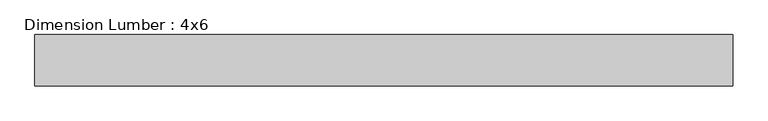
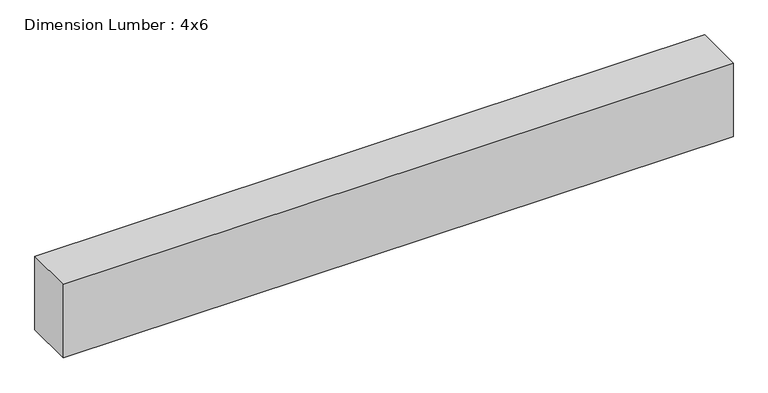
"""IFC4 building model written with IfcOpenShell, lengths in millimetres: beam geometry, Dimension Lumber : 4x6."""

import ifcopenshell
import ifcopenshell.guid

model = None  # the IFC model being written
_history = None  # IfcOwnerHistory: only IFC2X3 demands one
_inside = {}  # id of a spatial element -> (the spatial element, [elements in it])
_under = {}  # id of a project, library or spatial element -> (it, [spatial elements below it])
_declared = {}  # id of a project -> (the project, [libraries it declares])
_typed = {}  # id of a type object -> (the type object, [elements of that type])
_made_of = {}  # id of a material, layer set ... -> (it, [elements and type objects made of it])


def new_model(schema):
    """Start an empty IFC model of exactly this schema.

    Asked for "IFC4X3", IfcOpenShell would pick the latest addendum, in which some entities
    have other attributes; the version numbers below select the first issue.
    IFC2X3 requires an IfcOwnerHistory on every rooted entity: one is made here for all.
    """
    global model, _history
    if schema == "IFC4X3":
        model = ifcopenshell.file(schema_version=(4, 3, 0, 0))
    else:
        model = ifcopenshell.file(schema=schema)
    _inside.clear()
    _under.clear()
    _declared.clear()
    _typed.clear()
    _made_of.clear()
    _history = None
    if model.schema == "IFC2X3":
        org = make("IfcOrganization", Name="unknown")
        user = make(
            "IfcPersonAndOrganization",
            ThePerson=make("IfcPerson", FamilyName="unknown"),
            TheOrganization=org,
        )
        app = make(
            "IfcApplication",
            ApplicationDeveloper=org,
            Version="unknown",
            ApplicationFullName="unknown",
            ApplicationIdentifier="unknown",
        )
        _history = make(
            "IfcOwnerHistory",
            OwningUser=user,
            OwningApplication=app,
            ChangeAction="ADDED",
            CreationDate=0,
        )
    return model


def make(cls, **values):
    """One entity of the class cls with the attributes given. An attribute that is None is left unset."""
    return model.create_entity(
        cls, **{name: value for name, value in values.items() if value is not None}
    )


def rooted(cls, **values):
    """An entity with a GlobalId (a new one), such as an element, a storey or a relation."""
    return make(cls, GlobalId=ifcopenshell.guid.new(), OwnerHistory=_history, **values)


def si_unit(unit_type, name, prefix=None):
    """IfcSIUnit, for example si_unit("LENGTHUNIT", "METRE", prefix="MILLI")."""
    return make("IfcSIUnit", UnitType=unit_type, Prefix=prefix, Name=name)


def assignment(units):
    """IfcUnitAssignment: the units of a project."""
    return None if units is None else make("IfcUnitAssignment", Units=units)


def point(xyz):
    """IfcCartesianPoint."""
    return None if xyz is None else make("IfcCartesianPoint", Coordinates=xyz)


def direction(xyz):
    """IfcDirection."""
    return None if xyz is None else make("IfcDirection", DirectionRatios=xyz)


def frame(location, z_axis=None, x_axis=None):
    """IfcAxis2Placement3D, a coordinate frame: its origin and axes. An axis left out is left unset."""
    return make(
        "IfcAxis2Placement3D",
        Location=point(location),
        Axis=direction(z_axis),
        RefDirection=direction(x_axis),
    )


def origin():
    """The frame at (0, 0, 0) with its axes left unset."""
    return frame((0.0, 0.0, 0.0))


def place(relative_to, where):
    """IfcLocalPlacement: puts the frame where relative to a parent placement (None: the world)."""
    return make(
        "IfcLocalPlacement", PlacementRelTo=relative_to, RelativePlacement=where
    )


def context(
    kind, dimensions, precision=None, world=None, true_north=None, identifier=None
):
    """IfcGeometricRepresentationContext, for example the 3D "Model" context."""
    return make(
        "IfcGeometricRepresentationContext",
        ContextIdentifier=identifier,
        ContextType=kind,
        CoordinateSpaceDimension=dimensions,
        Precision=precision,
        WorldCoordinateSystem=world,
        TrueNorth=true_north,
    )


def project(units=None, contexts=None):
    """IfcProject with its units and contexts."""
    return rooted(
        "IfcProject",
        Name="project",
        RepresentationContexts=contexts,
        UnitsInContext=assignment(units),
    )


def spatial(cls, under=None, at=None, **own):
    """A site, building, storey or space (cls), placed at a placement, below another one or the project."""
    s = rooted(cls, ObjectPlacement=at, **own)
    if under is not None:
        _under.setdefault(under.id(), (under, []))[1].append(s)
    return s


def polyline(points):
    """IfcPolyline through the points."""
    return make("IfcPolyline", Points=[point(p) for p in points])


def outline(outer, holes=None, kind="AREA"):
    """IfcArbitraryClosedProfileDef: a profile drawn as a closed curve; with holes, ...WithVoids."""
    if holes is None:
        return make("IfcArbitraryClosedProfileDef", ProfileType=kind, OuterCurve=outer)
    return make(
        "IfcArbitraryProfileDefWithVoids",
        ProfileType=kind,
        OuterCurve=outer,
        InnerCurves=holes,
    )


def extrude(swept, where, along, depth):
    """IfcExtrudedAreaSolid: the profile swept, set in the frame where, extruded along a direction by depth."""
    return make(
        "IfcExtrudedAreaSolid",
        SweptArea=swept,
        Position=where,
        ExtrudedDirection=direction(along),
        Depth=depth,
    )


def shape(context_of_items, identifier, shape_type, items):
    """IfcShapeRepresentation: the items that make up one representation, for example the "Body"."""
    return make(
        "IfcShapeRepresentation",
        ContextOfItems=context_of_items,
        RepresentationIdentifier=identifier,
        RepresentationType=shape_type,
        Items=items,
    )


def source(mapping_origin, context_of_items, identifier, shape_type, items):
    """IfcRepresentationMap: a shape defined once, which mapped items show again and again."""
    return make(
        "IfcRepresentationMap",
        MappingOrigin=mapping_origin,
        MappedRepresentation=shape(context_of_items, identifier, shape_type, items),
    )


def transform(
    local_origin,
    x_axis=None,
    y_axis=None,
    z_axis=None,
    scale=None,
    scale2=None,
    scale3=None,
    uniform=True,
):
    """IfcCartesianTransformationOperator3D, or its non-uniform kind. x_axis, y_axis, z_axis: its Axis1, 2, 3."""
    if uniform:
        return make(
            "IfcCartesianTransformationOperator3D",
            Axis1=direction(x_axis),
            Axis2=direction(y_axis),
            LocalOrigin=point(local_origin),
            Scale=scale,
            Axis3=direction(z_axis),
        )
    return make(
        "IfcCartesianTransformationOperator3DnonUniform",
        Axis1=direction(x_axis),
        Axis2=direction(y_axis),
        LocalOrigin=point(local_origin),
        Scale=scale,
        Axis3=direction(z_axis),
        Scale2=scale2,
        Scale3=scale3,
    )


def mapped(mapping_source, mapping_target):
    """IfcMappedItem: shows the shape of a source again, moved by a transform."""
    return make(
        "IfcMappedItem", MappingSource=mapping_source, MappingTarget=mapping_target
    )


def made_of(thing, what):
    """Note that an element or type object is made of a material, layer set ...; save() writes the relation."""
    if what is not None:
        _made_of.setdefault(what.id(), (what, []))[1].append(thing)
    return thing


def element(
    cls,
    number,
    at=None,
    inside=None,
    cuts=None,
    type_object=None,
    material=None,
    context=None,
    identifier="Body",
    shape_type=None,
    held_by="IfcProductDefinitionShape",
    body=None,
    shapes=None,
    **own,
):
    """One element of the class cls, such as IfcWall. Its Tag is "e" and its number.

    at: its placement. inside: the storey or other place that contains it. cuts: it is an
    opening in that element (IfcRelVoidsElement). A single representation is given by context,
    identifier, shape_type and body (its items); several are given by shapes. held_by: the class
    of the entity that holds the representations. save() writes the other relations.
    """
    e = rooted(cls, Tag="e%d" % number, ObjectPlacement=at, **own)
    if body is not None:
        shapes = [shape(context, identifier, shape_type, body)]
    if shapes is not None:
        e.Representation = make(held_by, Representations=shapes)
    if inside is not None:
        _inside.setdefault(inside.id(), (inside, []))[1].append(e)
    if cuts is not None:
        rooted(
            "IfcRelVoidsElement", RelatingBuildingElement=cuts, RelatedOpeningElement=e
        )
    if type_object is not None:
        _typed.setdefault(type_object.id(), (type_object, []))[1].append(e)
    return made_of(e, material)


def aggregate(whole, parts):
    """IfcRelAggregates: a whole, such as a stair, and the parts it consists of."""
    return rooted("IfcRelAggregates", RelatingObject=whole, RelatedObjects=parts)


def save(model, path):
    """Write the relations noted so far, then the file.

    IfcRelAggregates (storeys below a building ...), IfcRelContainedInSpatialStructure (elements
    in a storey), IfcRelDefinesByType, IfcRelAssociatesMaterial and IfcRelDeclares: one each for
    every whole, place, type object, material and project.
    """
    for whole, parts in _under.values():
        aggregate(whole, parts)
    for where, things in _inside.values():
        rooted(
            "IfcRelContainedInSpatialStructure",
            RelatedElements=things,
            RelatingStructure=where,
        )
    for kind, things in _typed.values():
        rooted("IfcRelDefinesByType", RelatedObjects=things, RelatingType=kind)
    for what, things in _made_of.values():
        rooted("IfcRelAssociatesMaterial", RelatedObjects=things, RelatingMaterial=what)
    for by, libraries in _declared.values():
        rooted("IfcRelDeclares", RelatingContext=by, RelatedDefinitions=libraries)
    model.write(path)


def dimension_lumber_4x6_7f3c720d(model_context):
    return source(origin(), model_context, "Body", "SweptSolid", [
        extrude(outline(polyline([(603.24, 44.45), (603.24, -44.45), (-603.2499994, -44.45), (-603.2499994, 44.45), (603.24, 44.45)])), frame((0.0, 0.0, -69.85), z_axis=(0.0, 0.0, 1.0), x_axis=(1.0, 0.0, 0.0)), (0.0, 0.0, 1.0), 139.7),
    ])


if __name__ == "__main__":
    model = new_model("IFC4")
    model_context = context("Model", 3, world=origin())
    ifc_project = project(units=[si_unit("LENGTHUNIT", "METRE", prefix="MILLI")], contexts=[model_context])
    site = spatial("IfcSite", under=ifc_project)
    building = spatial("IfcBuilding", under=site)
    placement = place(None, origin())
    dimension_lumber_4x6_shape = dimension_lumber_4x6_7f3c720d(model_context)
    element("IfcBeam", 1, ObjectType="Dimension Lumber : 4x6", at=placement, inside=building, context=model_context, shape_type="MappedRepresentation", body=[
        mapped(dimension_lumber_4x6_shape, transform((0.0, 0.0, 0.0), x_axis=(1.0, 0.0, 0.0), y_axis=(0.0, 1.0, 0.0), z_axis=(0.0, 0.0, 1.0))),
    ])
    save(model, "model.ifc")
